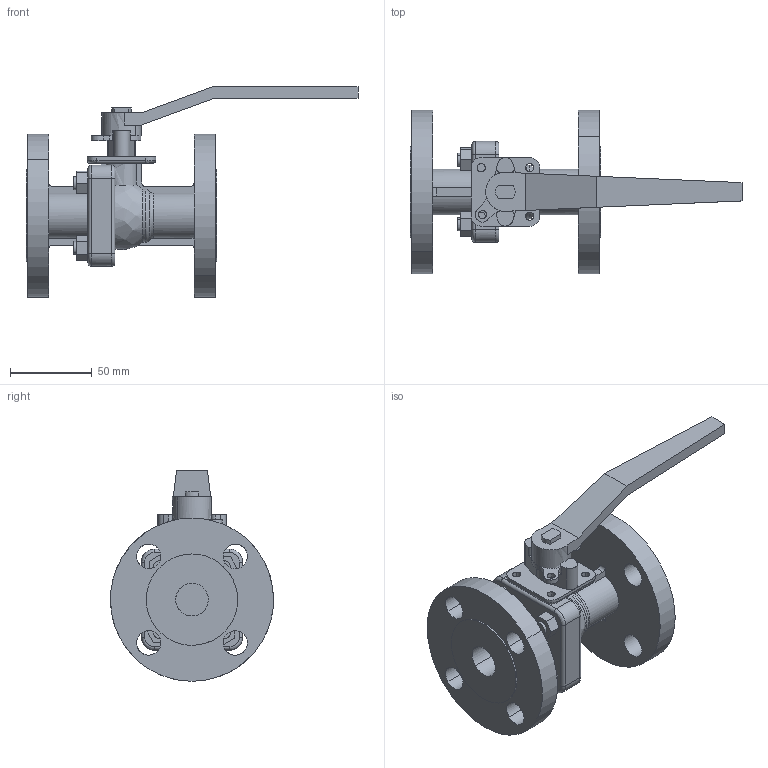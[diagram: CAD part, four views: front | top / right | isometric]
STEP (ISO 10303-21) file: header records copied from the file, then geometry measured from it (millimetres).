
FILE_DESCRIPTION((''),'2;1');
FILE_NAME('','2022-03-23T15:29:32',(''),(''),'','CADfix','');
FILE_SCHEMA(('AUTOMOTIVE_DESIGN { 1 0 10303 214 1 1 1 1 }'));
Length unit declared in the file: millimetre
Products named in the file (2): BLV-2SFJ 20A; BLV-2SF JIS 10K 20A_38
Assembly tree (1 placements, depth 2):
  BLV-2SF JIS 10K 20A_38
    BLV-2SFJ 20A
Bounding box: 203.5 x 100 x 129 mm (x, y, z)
Volume: 325208.4 mm3; surface area: 79422.8 mm2
Topology: 1 solids, 1 shells, 211 faces, 744 edges, 548 vertices
Faces by surface type: bspline 211
Entity records: 10745 total; most frequent: CARTESIAN_POINT 5809, ORIENTED_EDGE 1488, EDGE_CURVE 744, STYLED_ITEM 620, VERTEX_POINT 548, B_SPLINE_CURVE_WITH_KNOTS 343, QUASI_UNIFORM_CURVE 316, EDGE_LOOP 254
